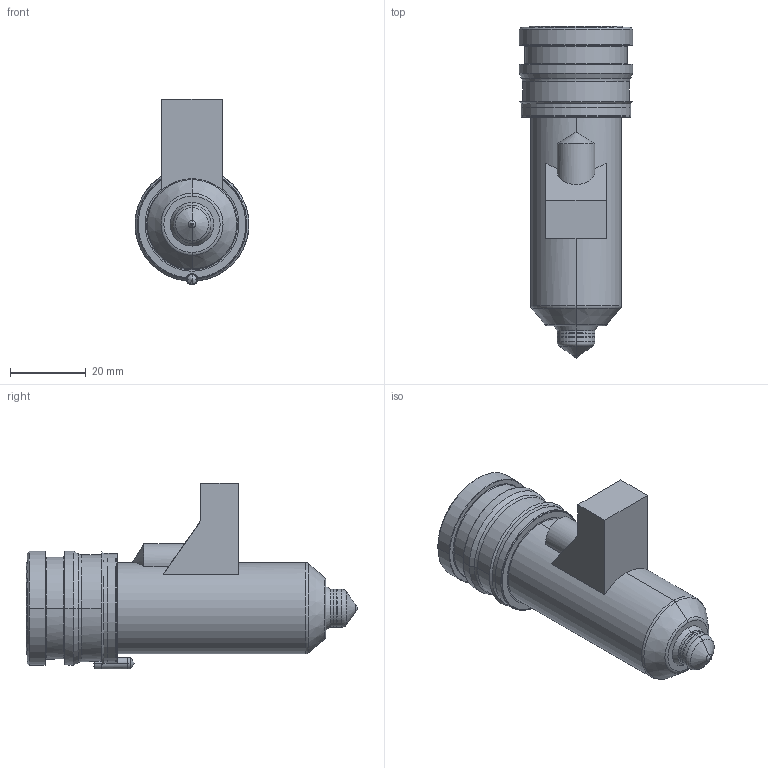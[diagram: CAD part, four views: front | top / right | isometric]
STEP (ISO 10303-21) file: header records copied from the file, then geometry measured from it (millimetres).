
FILE_DESCRIPTION((''),'2;1');
FILE_NAME('MPN-10-29-TX10-066-M','2026-02-05T12:50:40',('UPTIO'),('Thermoplay S.p.A.'),'CREO PARAMETRIC BY PTC INC, 2023494','CREO PARAMETRIC BY PTC INC, 2023494','');
FILE_SCHEMA(('CONFIG_CONTROL_DESIGN','SHAPE_APPEARANCE_LAYERS_GROUPS'));
Length unit declared in the file: millimetre
Products named in the file (1): MPN-10-29-TX10-066-M
Bounding box: 30 x 87.5 x 49 mm (x, y, z)
Volume: 28207.2 mm3; surface area: 28858.6 mm2
Topology: 3 solids, 5 shells, 541 faces, 1383 edges, 844 vertices
Faces by surface type: cylinder 177, plane 146, bspline 73, torus 67, cone 64, sphere 10, extrusion 4
Entity records: 28734 total; most frequent: CARTESIAN_POINT 12968, ORIENTED_EDGE 2748, DIRECTION 2568, EDGE_CURVE 1374, AXIS2_PLACEMENT_3D 1017, VERTEX_POINT 844, EDGE_LOOP 570, CIRCLE 552
